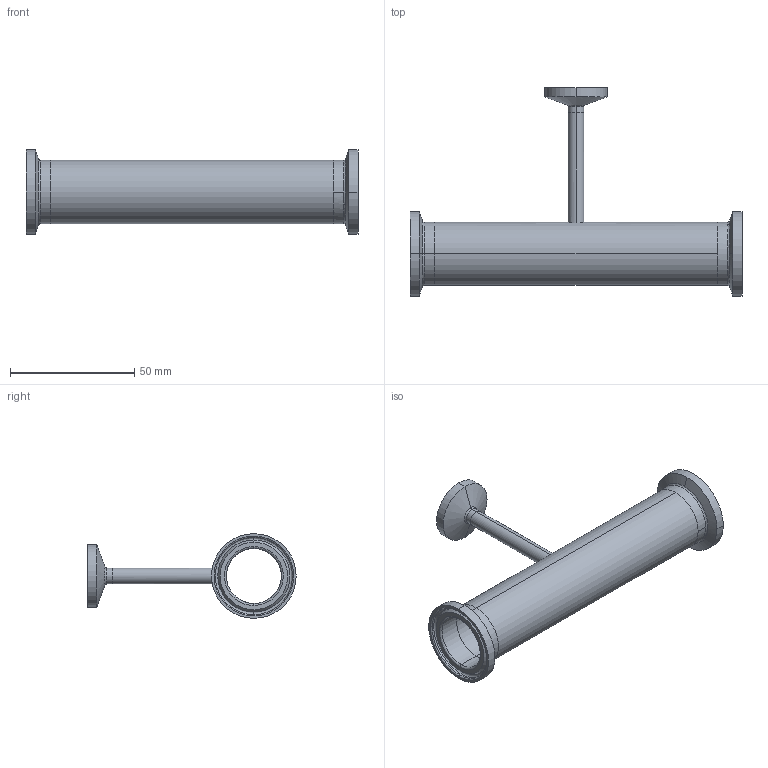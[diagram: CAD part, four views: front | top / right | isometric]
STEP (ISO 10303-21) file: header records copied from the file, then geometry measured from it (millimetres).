
FILE_DESCRIPTION (( 'STEP AP214' ), '1' );
FILE_NAME ('TEG7R6L1.0x.25-..Type A.STEP', '2016-05-24T05:30:02', ( 'eran' ), ( '' ), 'SwSTEP 2.0', 'SolidWorks 2016', '' );
FILE_SCHEMA (( 'AUTOMOTIVE_DESIGN' ));
Length unit declared in the file: millimetre
Products named in the file (1): TEG7R6L1.0x.25-..Type A
Bounding box: 133.4 x 83.71 x 34.01 mm (x, y, z)
Volume: 21664.9 mm3; surface area: 25612.8 mm2
Topology: 4 solids, 4 shells, 80 faces, 176 edges, 108 vertices
Faces by surface type: cylinder 32, bspline 24, plane 12, cone 12
Entity records: 2693 total; most frequent: CARTESIAN_POINT 885, DIRECTION 390, ORIENTED_EDGE 352, EDGE_CURVE 176, AXIS2_PLACEMENT_3D 173, CIRCLE 116, VERTEX_POINT 108, EDGE_LOOP 94
